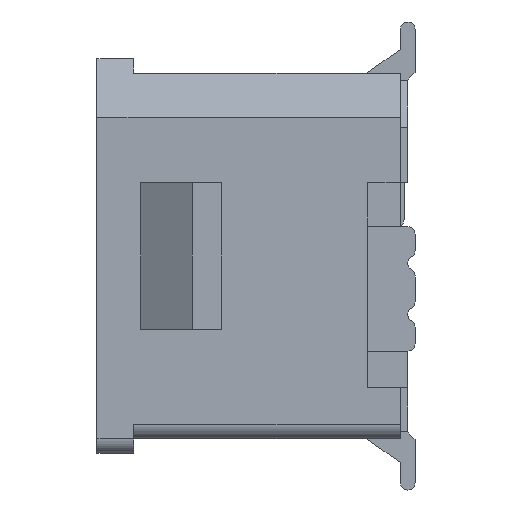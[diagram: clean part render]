
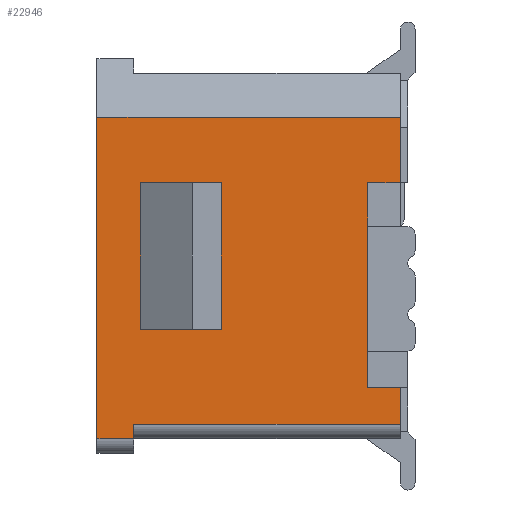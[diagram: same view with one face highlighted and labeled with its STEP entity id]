
A CAD part, left-side view. The second image highlights one B-rep face of the part: STEP entity #22946.
In plain terms, the highlighted planar face has unit normal (-1, 0, 0).
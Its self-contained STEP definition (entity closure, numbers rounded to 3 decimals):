
#1119=DIRECTION('',(0.,0.,-1.));
#1120=VECTOR('',#1119,4.4);
#1121=CARTESIAN_POINT('',(0.45,4.25,-0.8));
#1122=LINE('',#1121,#1120);
#5349=DIRECTION('',(0.,0.,-1.));
#5350=VECTOR('',#5349,0.9);
#5351=CARTESIAN_POINT('',(0.45,0.1,-0.8));
#5352=LINE('',#5351,#5350);
#5353=DIRECTION('',(0.,1.,0.));
#5354=VECTOR('',#5353,0.45);
#5355=CARTESIAN_POINT('',(0.45,0.1,-1.7));
#5356=LINE('',#5355,#5354);
#5357=DIRECTION('',(0.,0.,-1.));
#5358=VECTOR('',#5357,2.8);
#5359=CARTESIAN_POINT('',(0.45,0.55,-1.7));
#5360=LINE('',#5359,#5358);
#5361=DIRECTION('',(0.,-1.,0.));
#5362=VECTOR('',#5361,0.45);
#5363=CARTESIAN_POINT('',(0.45,0.55,-4.5));
#5364=LINE('',#5363,#5362);
#5365=DIRECTION('',(0.,0.,-1.));
#5366=VECTOR('',#5365,0.5);
#5367=CARTESIAN_POINT('',(0.45,0.1,-4.5));
#5368=LINE('',#5367,#5366);
#5369=DIRECTION('',(0.,-1.,0.));
#5370=VECTOR('',#5369,4.15);
#5371=CARTESIAN_POINT('',(0.45,4.25,-0.8));
#5372=LINE('',#5371,#5370);
#5373=DIRECTION('',(0.,-1.,0.));
#5374=VECTOR('',#5373,1.1);
#5375=CARTESIAN_POINT('',(0.45,3.65,-3.7));
#5376=LINE('',#5375,#5374);
#5377=DIRECTION('',(0.,0.,1.));
#5378=VECTOR('',#5377,2.);
#5379=CARTESIAN_POINT('',(0.45,2.55,-3.7));
#5380=LINE('',#5379,#5378);
#5381=DIRECTION('',(0.,1.,0.));
#5382=VECTOR('',#5381,1.1);
#5383=CARTESIAN_POINT('',(0.45,2.55,-1.7));
#5384=LINE('',#5383,#5382);
#5385=DIRECTION('',(0.,0.,-1.));
#5386=VECTOR('',#5385,2.);
#5387=CARTESIAN_POINT('',(0.45,3.65,-1.7));
#5388=LINE('',#5387,#5386);
#5669=DIRECTION('',(0.,-1.,0.));
#5670=VECTOR('',#5669,3.65);
#5671=CARTESIAN_POINT('',(0.45,3.75,-5.));
#5672=LINE('',#5671,#5670);
#5682=DIRECTION('',(0.,0.,1.));
#5683=VECTOR('',#5682,0.2);
#5684=CARTESIAN_POINT('',(0.45,3.75,-5.2));
#5685=LINE('',#5684,#5683);
#5711=DIRECTION('',(0.,-1.,0.));
#5712=VECTOR('',#5711,0.5);
#5713=CARTESIAN_POINT('',(0.45,4.25,-5.2));
#5714=LINE('',#5713,#5712);
#13748=CARTESIAN_POINT('',(0.45,4.25,-0.8));
#13750=VERTEX_POINT('',#13748);
#13751=CARTESIAN_POINT('',(0.45,4.25,-5.2));
#13752=VERTEX_POINT('',#13751);
#14461=CARTESIAN_POINT('',(0.45,3.75,-5.2));
#14463=VERTEX_POINT('',#14461);
#14464=CARTESIAN_POINT('',(0.45,3.75,-5.));
#14465=VERTEX_POINT('',#14464);
#14466=CARTESIAN_POINT('',(0.45,0.1,-0.8));
#14467=CARTESIAN_POINT('',(0.45,0.1,-1.7));
#14468=VERTEX_POINT('',#14466);
#14469=VERTEX_POINT('',#14467);
#14470=CARTESIAN_POINT('',(0.45,0.55,-1.7));
#14471=VERTEX_POINT('',#14470);
#14472=CARTESIAN_POINT('',(0.45,0.55,-4.5));
#14473=VERTEX_POINT('',#14472);
#14474=CARTESIAN_POINT('',(0.45,0.1,-4.5));
#14475=VERTEX_POINT('',#14474);
#14476=CARTESIAN_POINT('',(0.45,0.1,-5.));
#14477=VERTEX_POINT('',#14476);
#14478=CARTESIAN_POINT('',(0.45,3.65,-3.7));
#14479=CARTESIAN_POINT('',(0.45,2.55,-3.7));
#14480=VERTEX_POINT('',#14478);
#14481=VERTEX_POINT('',#14479);
#14482=CARTESIAN_POINT('',(0.45,2.55,-1.7));
#14483=VERTEX_POINT('',#14482);
#14484=CARTESIAN_POINT('',(0.45,3.65,-1.7));
#14485=VERTEX_POINT('',#14484);
#22913=CARTESIAN_POINT('',(0.45,2.175,-3.));
#22914=DIRECTION('',(1.,0.,0.));
#22915=DIRECTION('',(0.,-1.,0.));
#22916=AXIS2_PLACEMENT_3D('',#22913,#22914,#22915);
#22917=PLANE('',#22916);
#22919=ORIENTED_EDGE('',*,*,#22918,.T.);
#22920=ORIENTED_EDGE('',*,*,#22510,.T.);
#22922=ORIENTED_EDGE('',*,*,#22921,.T.);
#22923=ORIENTED_EDGE('',*,*,#22901,.T.);
#22924=ORIENTED_EDGE('',*,*,#22890,.T.);
#22926=ORIENTED_EDGE('',*,*,#22925,.F.);
#22928=ORIENTED_EDGE('',*,*,#22927,.F.);
#22930=ORIENTED_EDGE('',*,*,#22929,.F.);
#22931=ORIENTED_EDGE('',*,*,#17615,.F.);
#22933=ORIENTED_EDGE('',*,*,#22932,.T.);
#22934=EDGE_LOOP('',(#22919,#22920,#22922,#22923,#22924,#22926,#22928,#22930,
#22931,#22933));
#22935=FACE_OUTER_BOUND('',#22934,.F.);
#22937=ORIENTED_EDGE('',*,*,#22936,.T.);
#22939=ORIENTED_EDGE('',*,*,#22938,.T.);
#22941=ORIENTED_EDGE('',*,*,#22940,.T.);
#22943=ORIENTED_EDGE('',*,*,#22942,.T.);
#22944=EDGE_LOOP('',(#22937,#22939,#22941,#22943));
#22945=FACE_BOUND('',#22944,.F.);
#17615=EDGE_CURVE('',#13750,#13752,#1122,.T.);
#22510=EDGE_CURVE('',#14469,#14471,#5356,.T.);
#22890=EDGE_CURVE('',#14475,#14477,#5368,.T.);
#22901=EDGE_CURVE('',#14473,#14475,#5364,.T.);
#22918=EDGE_CURVE('',#14468,#14469,#5352,.T.);
#22921=EDGE_CURVE('',#14471,#14473,#5360,.T.);
#22925=EDGE_CURVE('',#14465,#14477,#5672,.T.);
#22927=EDGE_CURVE('',#14463,#14465,#5685,.T.);
#22929=EDGE_CURVE('',#13752,#14463,#5714,.T.);
#22932=EDGE_CURVE('',#13750,#14468,#5372,.T.);
#22936=EDGE_CURVE('',#14480,#14481,#5376,.T.);
#22938=EDGE_CURVE('',#14481,#14483,#5380,.T.);
#22940=EDGE_CURVE('',#14483,#14485,#5384,.T.);
#22942=EDGE_CURVE('',#14485,#14480,#5388,.T.);
#22946=ADVANCED_FACE('',(#22935,#22945),#22917,.F.);
